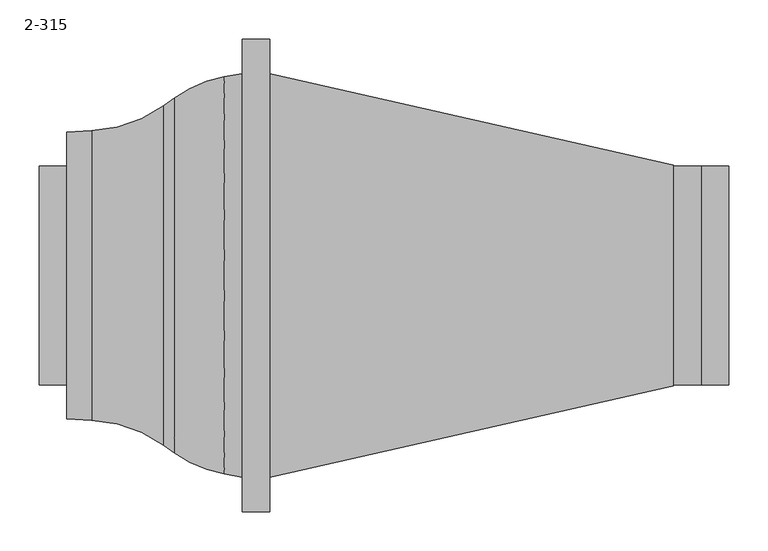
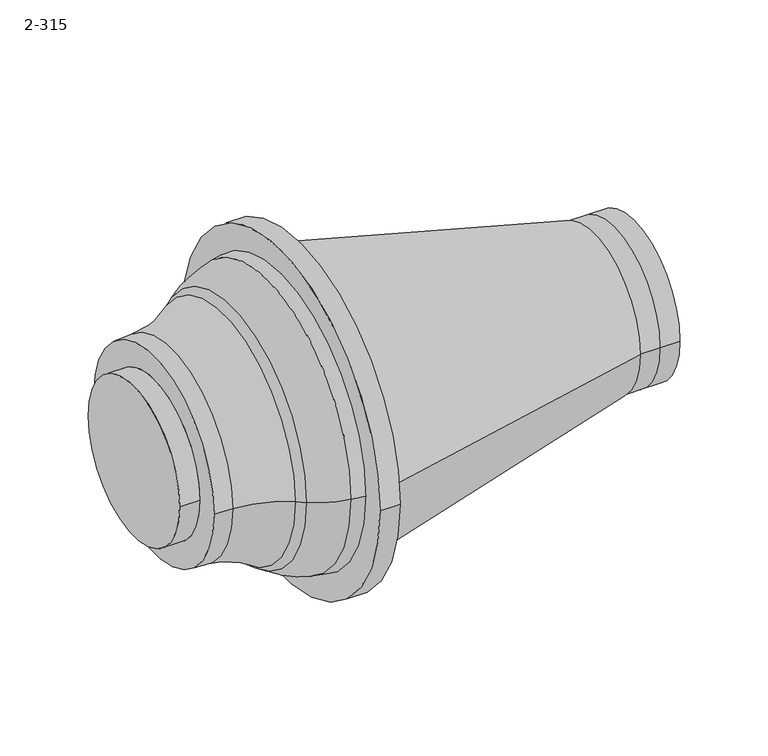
"""IFC4 building model written with IfcOpenShell, lengths in millimetres: unitary equipment geometry, VE-Wentylator-ParaForma-Harmann-VITT_L-Wywiewny : 2-315."""

from ifc_helpers import new_model, si_unit, point, frame, origin, origin_2d, place, context, project, spatial, polyline, circle_curve, ellipse_curve, trimmed, segment, composite_curve, outline, extrude, source, transform, mapped, element, save
from ifc_brep_helpers import plane_surface, cylinder_surface, revolved_surface, advanced_brep


def unitary_equipment_2_315_db821d4b(model_context):
    return source(origin(), model_context, "Body", "SolidModel", [
        advanced_brep(
        [(-35.0, -256.4, 0.0), (-35.0, 256.4, 0.0), (-257.5, 182.4, 0.0), (-257.5, -182.4, 0.0), (-257.5, 139.0, 0.0), (-257.5, -139.0, 0.0), (-121.1, -225.6, 0.0), (-134.4, -216.0, 0.0), (-134.4, 216.0, 0.0), (-121.1, 225.6, 0.0), (-58.0, -252.3, 0.0), (-58.0, 252.3, 0.0), (-226.1, -183.9, 0.0), (-226.1, 183.9, 0.0), (-292.5, -139.0, 0.0), (-292.5, 139.0, 0.0)],
        [
            (0, 1, circle_curve(frame((-35.0, 0.0, 0.0), z_axis=(1.0, 0.0, 0.0), x_axis=(0.0, 0.9999999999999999, 0.0)), 256.4)),
            (1, 0, circle_curve(frame((-35.0, 0.0, 0.0), z_axis=(1.0, 0.0, 0.0), x_axis=(0.0, 0.9999999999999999, 0.0)), 256.4)),
            (2, 3, circle_curve(frame((-257.5, 0.0, 0.0), z_axis=(-1.0, 0.0, 0.0), x_axis=(0.0, 0.9999999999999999, 0.0)), 182.4)),
            (3, 2, circle_curve(frame((-257.5, 0.0, 0.0), z_axis=(-1.0, 0.0, 0.0), x_axis=(0.0, 0.9999999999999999, 0.0)), 182.4)),
            (4, 5, circle_curve(frame((-257.5, 0.0, 0.0), z_axis=(1.0, 0.0, 0.0), x_axis=(0.0, 0.9999999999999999, 0.0)), 139.0)),
            (5, 4, circle_curve(frame((-257.5, 0.0, 0.0), z_axis=(1.0, 0.0, 0.0), x_axis=(0.0, 0.9999999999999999, 0.0)), 139.0)),
            (6, 7),
            (7, 8, circle_curve(frame((-134.4, 0.0, 0.0), z_axis=(1.0, 0.0, 0.0), x_axis=(0.0, 0.9999999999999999, 0.0)), 216.0)),
            (8, 9),
            (9, 6, circle_curve(frame((-121.1, 0.0, 0.0), z_axis=(-1.0, 0.0, 0.0), x_axis=(0.0, 0.9999999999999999, 0.0)), 225.6)),
            (6, 9, circle_curve(frame((-121.1, 0.0, 0.0), z_axis=(-1.0, 0.0, 0.0), x_axis=(0.0, 0.9999999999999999, 0.0)), 225.6)),
            (8, 7, circle_curve(frame((-134.4, 0.0, 0.0), z_axis=(1.0, 0.0, 0.0), x_axis=(0.0, 0.9999999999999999, 0.0)), 216.0)),
            (0, 10),
            (10, 11, circle_curve(frame((-58.0, 0.0, 0.0), z_axis=(1.0, 0.0, 0.0), x_axis=(0.0, 0.9999999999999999, 0.0)), 252.3)),
            (11, 1),
            (11, 10, circle_curve(frame((-58.0, 0.0, 0.0), z_axis=(1.0, 0.0, 0.0), x_axis=(0.0, 0.9999999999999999, 0.0)), 252.3)),
            (12, 3),
            (2, 13),
            (13, 12, circle_curve(frame((-226.1, 0.0, 0.0), z_axis=(-1.0, 0.0, 0.0), x_axis=(0.0, 0.9999999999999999, 0.0)), 183.9)),
            (12, 13, circle_curve(frame((-226.1, 0.0, 0.0), z_axis=(-1.0, 0.0, 0.0), x_axis=(0.0, 0.9999999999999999, 0.0)), 183.9)),
            (7, 12, circle_curve(frame((-234.3330378, -354.4488961, 0.0), z_axis=(0.0, 0.0, 1.0000000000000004), x_axis=(0.9999999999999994, 0.0, 0.0)), 170.7475003)),
            (13, 8, circle_curve(frame((-234.3330378, 354.4488961, 0.0), z_axis=(0.0, 0.0, 1.0000000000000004), x_axis=(0.9999999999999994, 0.0, 0.0)), 170.7475003)),
            (9, 11, circle_curve(frame((-31.1993417, 101.0501297, 0.0), z_axis=(0.0, 0.0, -1.0000000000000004), x_axis=(0.9999999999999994, 0.0, 0.0)), 153.6059848)),
            (10, 6, circle_curve(frame((-31.1993417, -101.0501297, 0.0), z_axis=(0.0, 0.0, -1.0000000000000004), x_axis=(0.9999999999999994, 0.0, 0.0)), 153.6059848)),
            (14, 15, circle_curve(frame((-292.5, 0.0, 0.0), z_axis=(-1.0, 0.0, 0.0), x_axis=(0.0, 0.9999999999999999, 0.0)), 139.0)),
            (15, 14, circle_curve(frame((-292.5, 0.0, 0.0), z_axis=(-1.0, 0.0, 0.0), x_axis=(0.0, 0.9999999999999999, 0.0)), 139.0)),
            (14, 5),
            (4, 15),
        ],
        [
            plane_surface(frame((-35.0, 0.0, 0.0), z_axis=(1.0, 0.0, 0.0), x_axis=(0.0, 0.0, -1.0))),
            plane_surface(frame((-257.5, 0.0, 0.0), z_axis=(-1.0, 0.0, 0.0), x_axis=(0.0, 0.0, -1.0))),
            revolved_surface(polyline([(-121.1, 225.6, 0.0), (-134.4, 216.0, 0.0)]), (-257.5, 0.0, 0.0), (-0.9999999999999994, 0.0, 0.0)),
            revolved_surface(polyline([(-35.0, 256.4, 0.0), (-58.0, 252.3, 0.0)]), (-257.5, 0.0, 0.0), (-0.9999999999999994, 0.0, 0.0)),
            revolved_surface(polyline([(-226.1, 183.9, 0.0), (-257.5, 182.4, 0.0)]), (-257.5, 0.0, 0.0), (-0.9999999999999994, 0.0, 0.0)),
            revolved_surface(trimmed(ellipse_curve(frame((-234.3330378, 354.4488961, 0.0), z_axis=(0.0, 0.0, -1.0000000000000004), x_axis=(0.9999999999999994, 0.0, 0.0)), 170.7475003, 170.7475003), [point((-134.4, 216.0, 0.0))], [point((-226.1, 183.9, 0.0))], True, "CARTESIAN"), (-257.5, 0.0, 0.0), (-0.9999999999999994, 0.0, 0.0)),
            revolved_surface(trimmed(ellipse_curve(frame((-31.1993417, 101.0501297, 0.0), z_axis=(0.0, 0.0, 1.0000000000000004), x_axis=(0.9999999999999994, 0.0, 0.0)), 153.6059848, 153.6059848), [point((-58.0, 252.3, 0.0))], [point((-121.1, 225.6, 0.0))], True, "CARTESIAN"), (-257.5, 0.0, 0.0), (-0.9999999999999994, 0.0, 0.0)),
            plane_surface(frame((-292.5, 0.0, 0.0), z_axis=(-1.0, 0.0, 0.0), x_axis=(0.0, 0.0, 1.0))),
            cylinder_surface(frame((-292.5, 0.0, 0.0), z_axis=(-0.9999999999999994, 0.0, 0.0), x_axis=(0.0, 0.9999999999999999, 0.0)), 139.0),
        ],
        [
            (0, [[1, 2]]),
            (1, [[3, 4], [5, 6]]),
            (2, [[7, 8, 9, 10]]),
            (2, [[-7, 11, -9, 12]]),
            (3, [[13, 14, 15, -1]]),
            (3, [[-13, -2, -15, 16]]),
            (4, [[17, -3, 18, 19]]),
            (4, [[-17, 20, -18, -4]]),
            (5, [[-8, 21, -19, 22]]),
            (5, [[-12, -22, -20, -21]]),
            (6, [[-10, 23, -14, 24]]),
            (6, [[-11, -24, -16, -23]]),
            (7, [[25, 26]]),
            (8, [[-25, 27, -5, 28]]),
            (8, [[-26, -28, -6, -27]]),
        ],
    ),
        advanced_brep(
        [(512.5, -140.0, 0.0), (512.5, 140.0, 0.0), (512.5, -139.0, 0.0), (512.5, 139.0, 0.0), (0.0, -256.25, 0.0), (0.0, 256.25, 0.0), (547.5, -139.0, 0.0), (547.5, 139.0, 0.0), (582.5, -139.0, 0.0), (582.5, 139.0, 0.0)],
        [
            (0, 1, circle_curve(frame((512.5, 0.0, 0.0), z_axis=(1.0, 0.0, 0.0), x_axis=(0.0, -0.9999999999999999, 0.0)), 140.0)),
            (1, 0, circle_curve(frame((512.5, 0.0, 0.0), z_axis=(1.0, 0.0, 0.0), x_axis=(0.0, 0.9999999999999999, 0.0)), 140.0)),
            (2, 3, circle_curve(frame((512.5, 0.0, 0.0), z_axis=(-1.0, 0.0, 0.0), x_axis=(0.0, 0.9999999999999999, 0.0)), 139.0)),
            (3, 2, circle_curve(frame((512.5, 0.0, 0.0), z_axis=(-1.0, 0.0, 0.0), x_axis=(0.0, 0.9999999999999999, 0.0)), 139.0)),
            (4, 5, circle_curve(frame((0.0, 0.0, 0.0), z_axis=(-1.0, 0.0, 0.0), x_axis=(0.0, 0.9999999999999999, 0.0)), 256.25)),
            (5, 4, circle_curve(frame((0.0, 0.0, 0.0), z_axis=(-1.0, 0.0, 0.0), x_axis=(0.0, -0.9999999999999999, 0.0)), 256.25)),
            (0, 4),
            (5, 1),
            (2, 6),
            (6, 7, circle_curve(frame((547.5, 0.0, 0.0), z_axis=(-1.0, 0.0, 0.0), x_axis=(0.0, 0.9999999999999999, 0.0)), 139.0)),
            (7, 3),
            (7, 6, circle_curve(frame((547.5, 0.0, 0.0), z_axis=(-1.0, 0.0, 0.0), x_axis=(0.0, 0.9999999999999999, 0.0)), 139.0)),
            (8, 9, circle_curve(frame((582.5, 0.0, 0.0), z_axis=(1.0, 0.0, 0.0), x_axis=(0.0, 0.9999999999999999, 0.0)), 139.0)),
            (9, 8, circle_curve(frame((582.5, 0.0, 0.0), z_axis=(1.0, 0.0, 0.0), x_axis=(0.0, 0.9999999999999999, 0.0)), 139.0)),
            (9, 7),
            (6, 8),
        ],
        [
            plane_surface(frame((512.5, 0.0, 0.0), z_axis=(1.0, 0.0, 0.0), x_axis=(0.0, 0.0, -1.0))),
            plane_surface(frame((0.0, 0.0, 0.0), z_axis=(-1.0, 0.0, 0.0), x_axis=(0.0, 0.0, -1.0))),
            revolved_surface(polyline([(512.5, -140.00000000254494, 0.0), (0.0, -256.25, 0.0)]), (1129.7043011, 0.0, 0.0), (-0.9999999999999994, 0.0, 0.0)),
            revolved_surface(polyline([(512.5, 140.00000000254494, 0.0), (0.0, 256.25, 0.0)]), (1129.7043011, 0.0, 0.0), (-0.9999999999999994, 0.0, 0.0)),
            cylinder_surface(frame((512.5, 0.0, 0.0), z_axis=(-0.9999999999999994, 0.0, 0.0), x_axis=(0.0, 0.9999999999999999, 0.0)), 139.0),
            plane_surface(frame((582.5, 0.0, 0.0), z_axis=(1.0, 0.0, 0.0), x_axis=(0.0, 0.0, 1.0))),
        ],
        [
            (0, [[1, 2], [3, 4]]),
            (1, [[5, 6]]),
            (2, [[-1, 7, -6, 8]]),
            (3, [[-2, -8, -5, -7]]),
            (4, [[9, 10, 11, -3]]),
            (4, [[-9, -4, -11, 12]]),
            (5, [[13, 14]]),
            (4, [[-14, 15, -10, 16]]),
            (4, [[-13, -16, -12, -15]]),
        ],
    ),
        extrude(outline(composite_curve([segment(trimmed(circle_curve(origin_2d(), 300.0), [point((-300.0, 0.0))], [point((300.0, 0.0))], False, "CARTESIAN"), True, "CONTINUOUS"), segment(trimmed(circle_curve(origin_2d(), 300.0), [point((300.0, 0.0))], [point((-300.0, 0.0))], False, "CARTESIAN"), True, "CONTINUOUS")], self_intersect=False)), frame((-35.0, 0.0, 0.0), z_axis=(1.0, 0.0, 0.0), x_axis=(0.0, 1.0, 0.0)), (0.0, 0.0, 1.0), 35.0),
    ])


if __name__ == "__main__":
    model = new_model("IFC4")
    model_context = context("Model", 3, world=origin())
    ifc_project = project(units=[si_unit("LENGTHUNIT", "METRE", prefix="MILLI")], contexts=[model_context])
    site = spatial("IfcSite", under=ifc_project)
    building = spatial("IfcBuilding", under=site)
    placement = place(None, origin())
    unitary_equipment_2_315_shape = unitary_equipment_2_315_db821d4b(model_context)
    element("IfcUnitaryEquipment", 1, ObjectType="VE-Wentylator-ParaForma-Harmann-VITT_L-Wywiewny : 2-315", at=placement, inside=building, context=model_context, shape_type="MappedRepresentation", body=[
        mapped(unitary_equipment_2_315_shape, transform((0.0, 0.0, 0.0), x_axis=(1.0, 0.0, 0.0), y_axis=(0.0, 1.0, 0.0), z_axis=(0.0, 0.0, 1.0))),
    ])
    save(model, "model.ifc")
